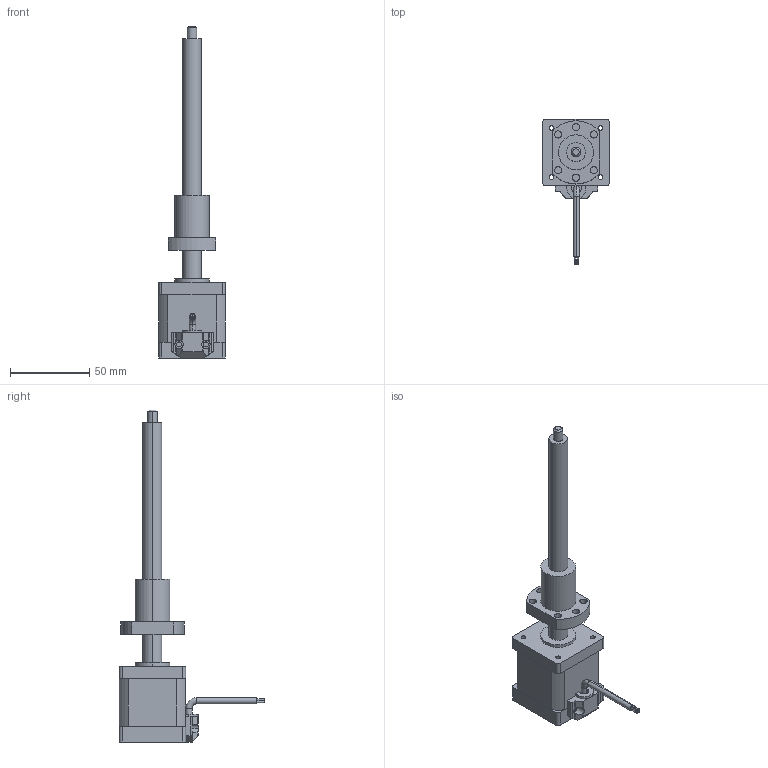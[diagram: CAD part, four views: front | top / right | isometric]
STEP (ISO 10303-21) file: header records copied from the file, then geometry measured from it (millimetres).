
FILE_DESCRIPTION (( 'STEP AP203' ), '1' );
FILE_NAME ('42E248-BS1204-2.5-4-162-001.STEP', '2020-06-17T04:34:10', ( '' ), ( '' ), 'SwSTEP 2.0', 'SolidWorks 2017', '' );
FILE_SCHEMA (( 'CONFIG_CONTROL_DESIGN' ));
Length unit declared in the file: millimetre
Products named in the file (1): 42E248-BS1204-2.5-4-162-001
Bounding box: 42 x 92 x 210 mm (x, y, z)
Volume: 116886.6 mm3; surface area: 29570.3 mm2
Topology: 3 solids, 3 shells, 159 faces, 414 edges, 273 vertices
Faces by surface type: cylinder 96, plane 59, torus 2, cone 2
Entity records: 5144 total; most frequent: CARTESIAN_POINT 937, DIRECTION 903, ORIENTED_EDGE 828, EDGE_CURVE 414, AXIS2_PLACEMENT_3D 347, VERTEX_POINT 273, EDGE_LOOP 213, LINE 209
